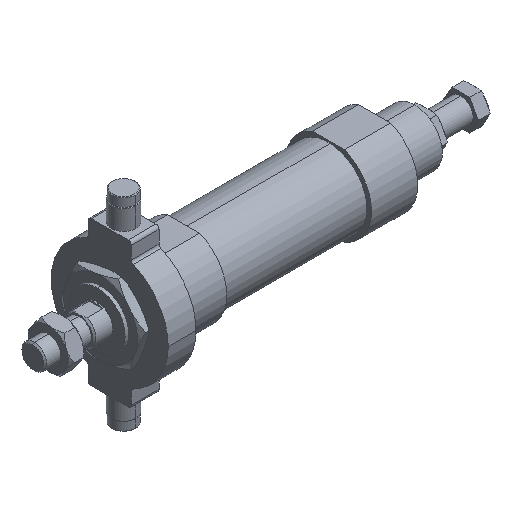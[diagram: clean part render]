
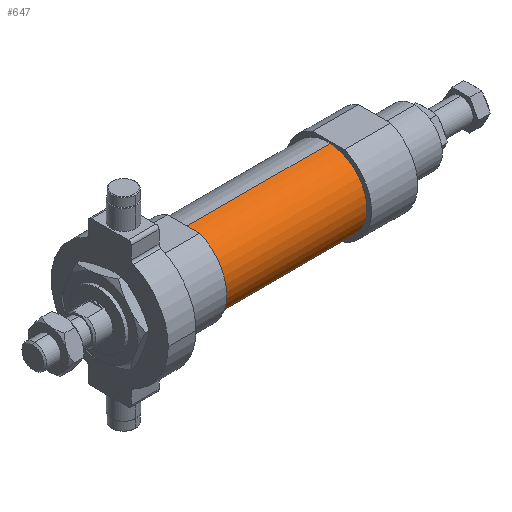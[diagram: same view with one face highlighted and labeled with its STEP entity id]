
A CAD part, isometric view. The second image highlights one B-rep face of the part: STEP entity #647.
In plain terms, the highlighted cylindrical face has radius 12.5 mm (diameter 25 mm), a partial arc.
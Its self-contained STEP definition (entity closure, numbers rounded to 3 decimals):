
#93 = CARTESIAN_POINT ( 'NONE',  ( 23.5, 0., -12.5 ) ) ;
#177 = AXIS2_PLACEMENT_3D ( 'NONE', #4248, #3872, #1352 ) ;
#218 = DIRECTION ( 'NONE',  ( 1., 0., 0. ) ) ;
#621 = CYLINDRICAL_SURFACE ( 'NONE', #5351, 12.5 ) ;
#647 = ADVANCED_FACE ( 'NONE', ( #4983 ), #621, .T. ) ;
#672 = CARTESIAN_POINT ( 'NONE',  ( 23.5, 0., 12.5 ) ) ;
#718 = DIRECTION ( 'NONE',  ( -1., 0., 0. ) ) ;
#727 = CARTESIAN_POINT ( 'NONE',  ( -23.5, 0., -12.5 ) ) ;
#908 = CARTESIAN_POINT ( 'NONE',  ( 23.5, 0., -12.5 ) ) ;
#1042 = VERTEX_POINT ( 'NONE', #93 ) ;
#1143 = CIRCLE ( 'NONE', #177, 12.5 ) ;
#1212 = CARTESIAN_POINT ( 'NONE',  ( -23.5, 0., 12.5 ) ) ;
#1217 = ORIENTED_EDGE ( 'NONE', *, *, #1226, .F. ) ;
#1226 = EDGE_CURVE ( 'NONE', #1042, #2654, #3424, .T. ) ;
#1282 = ORIENTED_EDGE ( 'NONE', *, *, #2189, .T. ) ;
#1352 = DIRECTION ( 'NONE',  ( 0., 0., -1. ) ) ;
#1362 = DIRECTION ( 'NONE',  ( -1., 0., 0. ) ) ;
#1464 = VECTOR ( 'NONE', #718, 1000. ) ;
#1572 = EDGE_CURVE ( 'NONE', #3245, #1042, #1143, .T. ) ;
#1638 = CARTESIAN_POINT ( 'NONE',  ( 23.5, 0., 0. ) ) ;
#1662 = EDGE_LOOP ( 'NONE', ( #1217, #2987, #1282, #4216 ) ) ;
#1709 = DIRECTION ( 'NONE',  ( 0., 0., -1. ) ) ;
#2154 = CIRCLE ( 'NONE', #3033, 12.5 ) ;
#2189 = EDGE_CURVE ( 'NONE', #3245, #4109, #2704, .T. ) ;
#2393 = DIRECTION ( 'NONE',  ( -1., 0., 0. ) ) ;
#2467 = DIRECTION ( 'NONE',  ( 0., 0., 1. ) ) ;
#2654 = VERTEX_POINT ( 'NONE', #727 ) ;
#2704 = LINE ( 'NONE', #3355, #2823 ) ;
#2823 = VECTOR ( 'NONE', #2393, 1000. ) ;
#2987 = ORIENTED_EDGE ( 'NONE', *, *, #1572, .F. ) ;
#3033 = AXIS2_PLACEMENT_3D ( 'NONE', #3966, #218, #1709 ) ;
#3245 = VERTEX_POINT ( 'NONE', #672 ) ;
#3355 = CARTESIAN_POINT ( 'NONE',  ( 23.5, 0., 12.5 ) ) ;
#3424 = LINE ( 'NONE', #908, #1464 ) ;
#3872 = DIRECTION ( 'NONE',  ( 1., 0., 0. ) ) ;
#3966 = CARTESIAN_POINT ( 'NONE',  ( -23.5, 0., 0. ) ) ;
#4109 = VERTEX_POINT ( 'NONE', #1212 ) ;
#4216 = ORIENTED_EDGE ( 'NONE', *, *, #4572, .T. ) ;
#4248 = CARTESIAN_POINT ( 'NONE',  ( 23.5, 0., 0. ) ) ;
#4572 = EDGE_CURVE ( 'NONE', #4109, #2654, #2154, .T. ) ;
#4983 = FACE_OUTER_BOUND ( 'NONE', #1662, .T. ) ;
#5351 = AXIS2_PLACEMENT_3D ( 'NONE', #1638, #1362, #2467 ) ;
